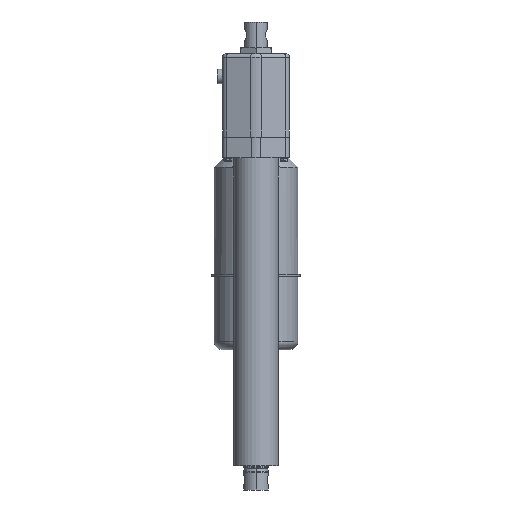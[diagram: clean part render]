
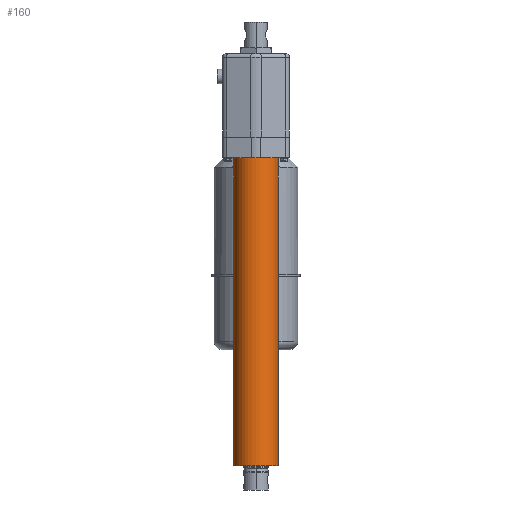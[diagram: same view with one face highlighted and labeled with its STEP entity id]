
A CAD part, front view. The second image highlights one B-rep face of the part: STEP entity #160.
In plain terms, the highlighted cylindrical face has radius 25.65 mm (diameter 51.3 mm), a partial arc.
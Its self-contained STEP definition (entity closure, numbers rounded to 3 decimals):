
#160 = ADVANCED_FACE ( 'NONE', ( #6585 ), #6588, .T. ) ;
#680 = EDGE_LOOP ( 'NONE', ( #6012, #6013, #6014, #6015 ) ) ;
#1401 = AXIS2_PLACEMENT_3D ( 'NONE', #2031, #2030, #2029 ) ;
#1741 = AXIS2_PLACEMENT_3D ( 'NONE', #5402, #5424, #5425 ) ;
#1753 = AXIS2_PLACEMENT_3D ( 'NONE', #5524, #5531, #5532 ) ;
#2029 = DIRECTION ( 'NONE',  ( 1., 0., 0. ) ) ;
#2030 = DIRECTION ( 'NONE',  ( 0., 0., 1. ) ) ;
#2031 = CARTESIAN_POINT ( 'NONE',  ( 0., 0., -72.549 ) ) ;
#3206 = VERTEX_POINT ( 'NONE', #4975 ) ;
#3210 = VERTEX_POINT ( 'NONE', #4979 ) ;
#3231 = VERTEX_POINT ( 'NONE', #5000 ) ;
#3236 = VERTEX_POINT ( 'NONE', #5005 ) ;
#3745 = CIRCLE ( 'NONE', #1741, 25.65 ) ;
#3764 = LINE ( 'NONE', #5525, #3769 ) ;
#3769 = VECTOR ( 'NONE', #5526, 1000. ) ;
#3778 = CIRCLE ( 'NONE', #1753, 25.65 ) ;
#3779 = LINE ( 'NONE', #5536, #3780 ) ;
#3780 = VECTOR ( 'NONE', #5537, 1000. ) ;
#4975 = CARTESIAN_POINT ( 'NONE',  ( 25.65, 0., 352.1 ) ) ;
#4979 = CARTESIAN_POINT ( 'NONE',  ( -25.65, 0., 0. ) ) ;
#5000 = CARTESIAN_POINT ( 'NONE',  ( 25.65, 0., 0. ) ) ;
#5005 = CARTESIAN_POINT ( 'NONE',  ( -25.65, 0., 352.1 ) ) ;
#5402 = CARTESIAN_POINT ( 'NONE',  ( 0., 0., 0. ) ) ;
#5424 = DIRECTION ( 'NONE',  ( 0., 0., -1. ) ) ;
#5425 = DIRECTION ( 'NONE',  ( 1., 0., 0. ) ) ;
#5524 = CARTESIAN_POINT ( 'NONE',  ( 0., 0., 352.1 ) ) ;
#5525 = CARTESIAN_POINT ( 'NONE',  ( 25.65, 0., -72.549 ) ) ;
#5526 = DIRECTION ( 'NONE',  ( 0., 0., 1. ) ) ;
#5531 = DIRECTION ( 'NONE',  ( 0., 0., 1. ) ) ;
#5532 = DIRECTION ( 'NONE',  ( 1., 0., 0. ) ) ;
#5536 = CARTESIAN_POINT ( 'NONE',  ( -25.65, 0., -72.549 ) ) ;
#5537 = DIRECTION ( 'NONE',  ( 0., 0., 1. ) ) ;
#6012 = ORIENTED_EDGE ( 'NONE', *, *, #7472, .F. ) ;
#6013 = ORIENTED_EDGE ( 'NONE', *, *, #7445, .F. ) ;
#6014 = ORIENTED_EDGE ( 'NONE', *, *, #7468, .T. ) ;
#6015 = ORIENTED_EDGE ( 'NONE', *, *, #7470, .F. ) ;
#6585 = FACE_OUTER_BOUND ( 'NONE', #680, .T. ) ;
#6588 = CYLINDRICAL_SURFACE ( 'NONE', #1401, 25.65 ) ;
#7445 = EDGE_CURVE ( 'NONE', #3231, #3210, #3745, .T. ) ;
#7468 = EDGE_CURVE ( 'NONE', #3231, #3206, #3764, .T. ) ;
#7470 = EDGE_CURVE ( 'NONE', #3236, #3206, #3778, .T. ) ;
#7472 = EDGE_CURVE ( 'NONE', #3210, #3236, #3779, .T. ) ;
